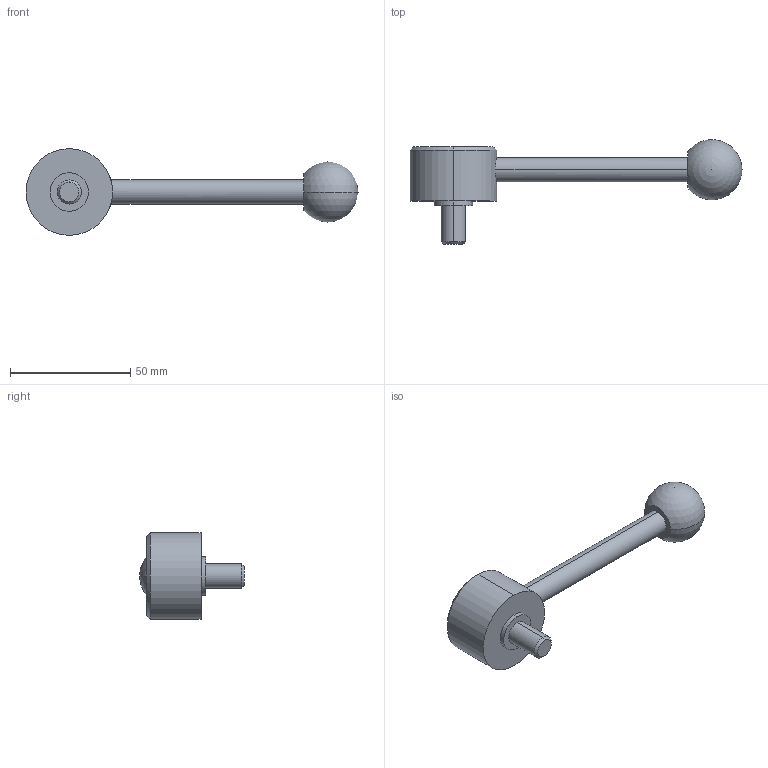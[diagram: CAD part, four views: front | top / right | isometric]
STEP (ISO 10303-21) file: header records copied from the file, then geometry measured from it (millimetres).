
FILE_DESCRIPTION (( 'STEP AP214' ), '1' );
FILE_NAME ('125.5-36-M10-16-D.step', '2020-02-18T11:29:26', ( '' ), ( '' ), 'SwSTEP 2.0', 'SolidWorks 2019', '' );
FILE_SCHEMA (( 'AUTOMOTIVE_DESIGN' ));
Length unit declared in the file: millimetre
Products named in the file (1): 125.5-36-M10-16-D
Bounding box: 138 x 43.5 x 36 mm (x, y, z)
Volume: 38728.8 mm3; surface area: 9368.4 mm2
Topology: 1 solids, 1 shells, 22 faces, 47 edges, 30 vertices
Faces by surface type: cylinder 10, plane 6, cone 4, sphere 2
Entity records: 738 total; most frequent: CARTESIAN_POINT 166, DIRECTION 112, ORIENTED_EDGE 84, AXIS2_PLACEMENT_3D 49, EDGE_CURVE 42, VERTEX_POINT 27, EDGE_LOOP 27, CIRCLE 26
